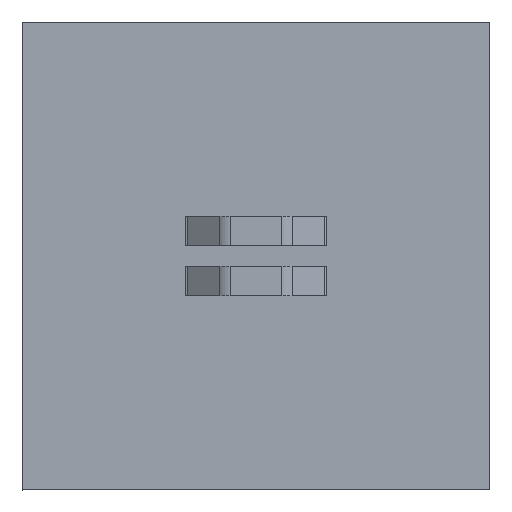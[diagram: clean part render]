
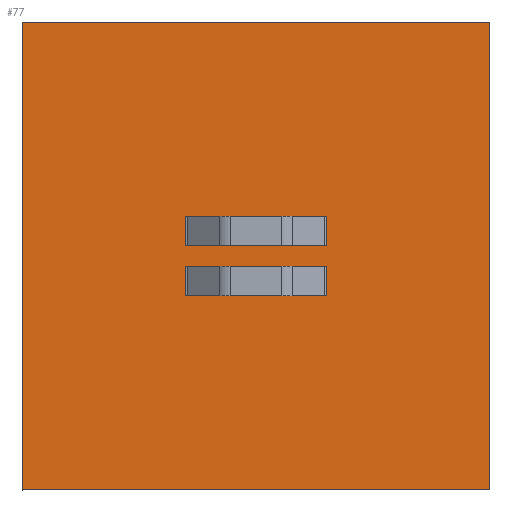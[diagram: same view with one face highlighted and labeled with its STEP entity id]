
A CAD part, top view. The second image highlights one B-rep face of the part: STEP entity #77.
In plain terms, the highlighted planar face has unit normal (0, 0, 1).
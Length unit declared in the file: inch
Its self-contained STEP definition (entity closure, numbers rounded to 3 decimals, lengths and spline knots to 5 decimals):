
#77=ADVANCED_FACE('',(#124,#125,#126),#127,.F.);
#124=FACE_BOUND('',#212,.T.);
#125=FACE_BOUND('',#213,.T.);
#126=FACE_OUTER_BOUND('',#214,.T.);
#127=PLANE('',#215);
#212=EDGE_LOOP('',(#318,#319,#320,#321,#322,#323));
#213=EDGE_LOOP('',(#324,#325,#326,#327));
#214=EDGE_LOOP('',(#328,#329,#330,#331));
#215=AXIS2_PLACEMENT_3D('',#332,#333,#334);
#318=ORIENTED_EDGE('',*,*,#673,.F.);
#319=ORIENTED_EDGE('',*,*,#674,.T.);
#320=ORIENTED_EDGE('',*,*,#675,.T.);
#321=ORIENTED_EDGE('',*,*,#676,.F.);
#322=ORIENTED_EDGE('',*,*,#677,.F.);
#323=ORIENTED_EDGE('',*,*,#657,.F.);
#324=ORIENTED_EDGE('',*,*,#678,.F.);
#325=ORIENTED_EDGE('',*,*,#679,.F.);
#326=ORIENTED_EDGE('',*,*,#680,.T.);
#327=ORIENTED_EDGE('',*,*,#681,.T.);
#328=ORIENTED_EDGE('',*,*,#682,.T.);
#329=ORIENTED_EDGE('',*,*,#683,.T.);
#330=ORIENTED_EDGE('',*,*,#684,.T.);
#331=ORIENTED_EDGE('',*,*,#685,.T.);
#332=CARTESIAN_POINT('',(-3.92802,2.24,0.0));
#333=DIRECTION('',(0.,0.,-1.0));
#334=DIRECTION('',(0.0,1.0,0.));
#657=EDGE_CURVE('',#775,#777,#778,.T.);
#673=EDGE_CURVE('',#807,#775,#808,.T.);
#674=EDGE_CURVE('',#807,#809,#810,.T.);
#675=EDGE_CURVE('',#809,#811,#812,.T.);
#676=EDGE_CURVE('',#813,#811,#814,.T.);
#677=EDGE_CURVE('',#777,#813,#815,.T.);
#678=EDGE_CURVE('',#816,#817,#818,.T.);
#679=EDGE_CURVE('',#819,#816,#820,.T.);
#680=EDGE_CURVE('',#819,#821,#822,.T.);
#681=EDGE_CURVE('',#821,#817,#823,.T.);
#682=EDGE_CURVE('',#824,#825,#826,.F.);
#683=EDGE_CURVE('',#825,#827,#828,.F.);
#684=EDGE_CURVE('',#827,#829,#830,.T.);
#685=EDGE_CURVE('',#829,#824,#831,.T.);
#775=VERTEX_POINT('',#967);
#777=VERTEX_POINT('',#970);
#778=LINE('',#971,#972);
#807=VERTEX_POINT('',#1014);
#808=LINE('',#1015,#1016);
#809=VERTEX_POINT('',#1017);
#810=LINE('',#1018,#1019);
#811=VERTEX_POINT('',#1020);
#812=LINE('',#1021,#1022);
#813=VERTEX_POINT('',#1023);
#814=LINE('',#1024,#1025);
#815=LINE('',#1026,#1027);
#816=VERTEX_POINT('',#1028);
#817=VERTEX_POINT('',#1029);
#818=LINE('',#1030,#1031);
#819=VERTEX_POINT('',#1032);
#820=LINE('',#1033,#1034);
#821=VERTEX_POINT('',#1035);
#822=LINE('',#1036,#1037);
#823=LINE('',#1038,#1039);
#824=VERTEX_POINT('',#1040);
#825=VERTEX_POINT('',#1041);
#826=LINE('',#1042,#1043);
#827=VERTEX_POINT('',#1044);
#828=LINE('',#1045,#1046);
#829=VERTEX_POINT('',#1047);
#830=LINE('',#1048,#1049);
#831=LINE('',#1050,#1051);
#967=CARTESIAN_POINT('',(-11.21516,0.6375,0.0));
#970=CARTESIAN_POINT('',(-10.78284,0.6375,0.0));
#971=CARTESIAN_POINT('',(-11.299,0.6375,0.0));
#972=VECTOR('',#1245,0.6);
#1014=CARTESIAN_POINT('',(-11.299,0.6375,0.0));
#1015=CARTESIAN_POINT('',(-11.299,0.6375,0.0));
#1016=VECTOR('',#1265,0.6);
#1017=CARTESIAN_POINT('',(-11.299,0.7625,0.0));
#1018=CARTESIAN_POINT('',(-11.299,0.653,0.0));
#1019=VECTOR('',#1266,0.1095);
#1020=CARTESIAN_POINT('',(-10.699,0.7625,0.0));
#1021=CARTESIAN_POINT('',(-11.299,0.7625,0.0));
#1022=VECTOR('',#1267,0.6);
#1023=CARTESIAN_POINT('',(-10.699,0.6375,0.0));
#1024=CARTESIAN_POINT('',(-10.699,0.653,0.0));
#1025=VECTOR('',#1268,0.1095);
#1026=CARTESIAN_POINT('',(-11.299,0.6375,0.0));
#1027=VECTOR('',#1269,0.6);
#1028=CARTESIAN_POINT('',(-10.699,0.8525,0.0));
#1029=CARTESIAN_POINT('',(-10.699,0.9775,0.0));
#1030=CARTESIAN_POINT('',(-10.699,0.8525,0.0));
#1031=VECTOR('',#1270,0.125);
#1032=CARTESIAN_POINT('',(-11.299,0.8525,0.0));
#1033=CARTESIAN_POINT('',(-11.299,0.8525,0.0));
#1034=VECTOR('',#1271,0.6);
#1035=CARTESIAN_POINT('',(-11.299,0.9775,0.0));
#1036=CARTESIAN_POINT('',(-11.299,0.8525,0.0));
#1037=VECTOR('',#1272,0.125);
#1038=CARTESIAN_POINT('',(-11.299,0.9775,0.0));
#1039=VECTOR('',#1273,0.6);
#1040=CARTESIAN_POINT('',(-9.999,1.8075,0.0));
#1041=CARTESIAN_POINT('',(-11.999,1.8075,0.0));
#1042=CARTESIAN_POINT('',(54966.14335,1.8075,0.0));
#1043=VECTOR('',#1274,1.0);
#1044=CARTESIAN_POINT('',(-11.999,-0.193,0.0));
#1045=CARTESIAN_POINT('',(-11.999,1.4185,0.0));
#1046=VECTOR('',#1275,1.0);
#1047=CARTESIAN_POINT('',(-9.999,-0.193,0.0));
#1048=CARTESIAN_POINT('',(-6.08101,-0.193,0.0));
#1049=VECTOR('',#1276,1.0);
#1050=CARTESIAN_POINT('',(-9.999,29414.68703,0.));
#1051=VECTOR('',#1277,1.0);
#1245=DIRECTION('',(1.0,0.,0.));
#1265=DIRECTION('',(1.0,0.,0.));
#1266=DIRECTION('',(0.,1.0,0.));
#1267=DIRECTION('',(1.0,0.,0.));
#1268=DIRECTION('',(0.,1.0,0.));
#1269=DIRECTION('',(1.0,0.,0.));
#1270=DIRECTION('',(0.,1.0,0.));
#1271=DIRECTION('',(1.0,0.,0.));
#1272=DIRECTION('',(0.,1.0,0.));
#1273=DIRECTION('',(1.0,0.,0.));
#1274=DIRECTION('',(1.0,0.0,0.));
#1275=DIRECTION('',(0.,1.0,0.));
#1276=DIRECTION('',(1.0,0.,0.));
#1277=DIRECTION('',(0.0,1.0,0.));
